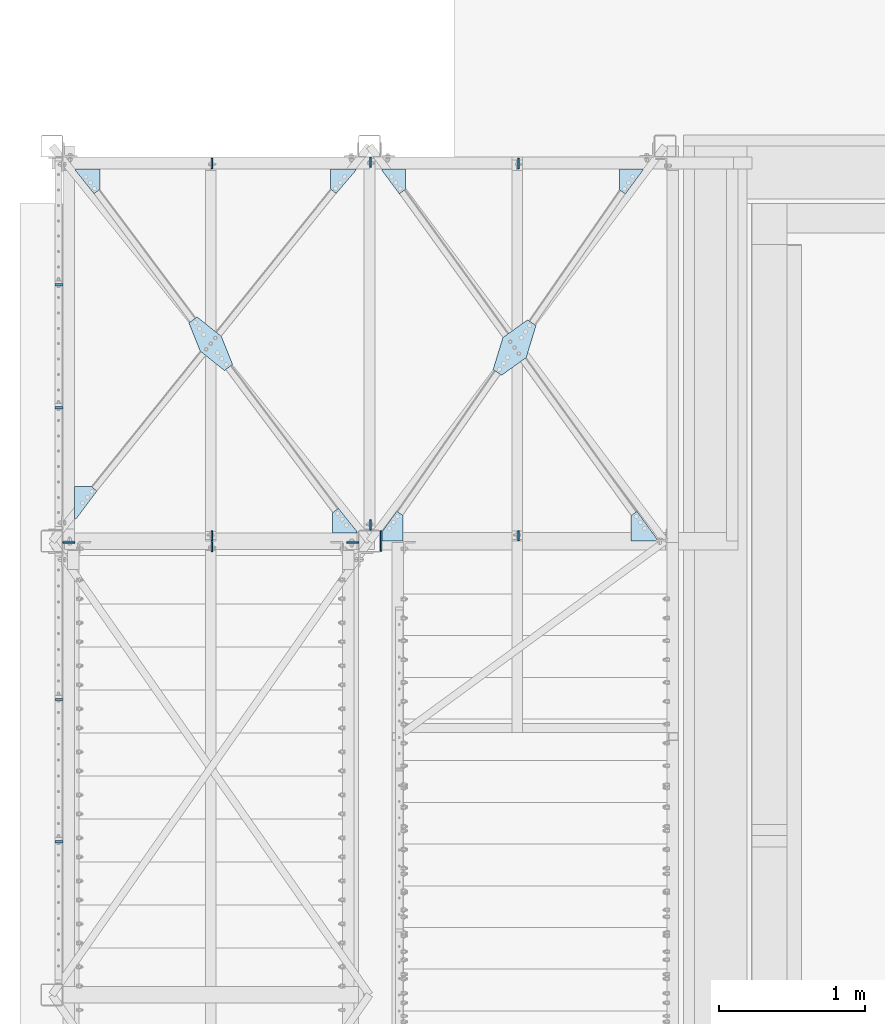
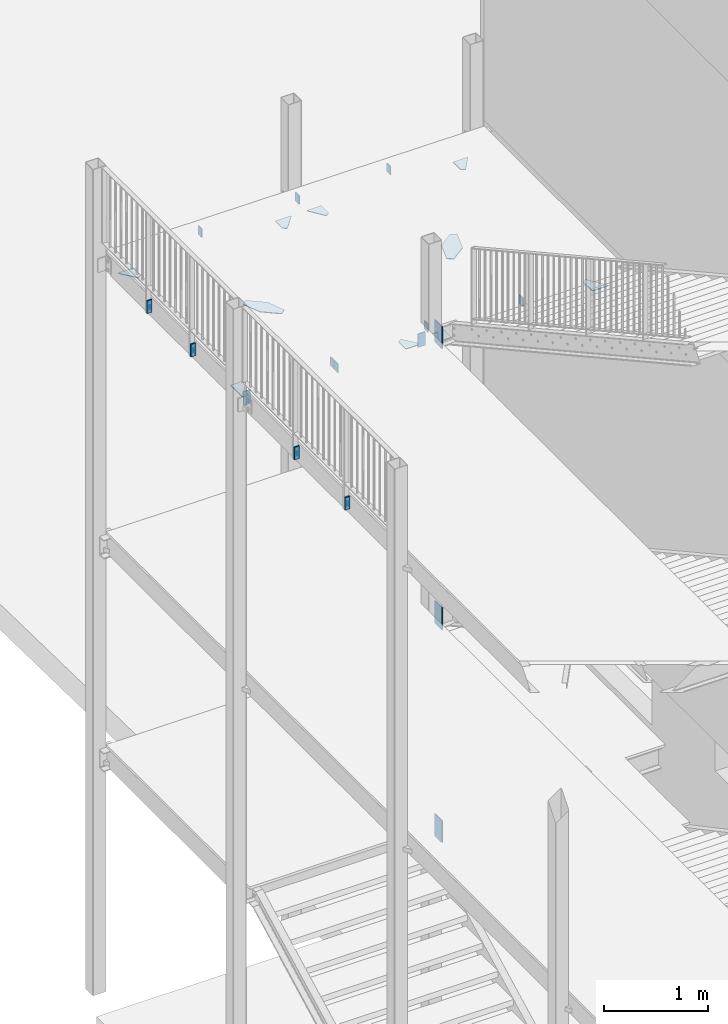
# One storey, part 63 of 78: 26 plates, 10 elements without a shape of their own.
"""IFC2X3 building model written with IfcOpenShell, lengths in millimetres."""

from ifc_helpers import new_model, si_unit, frame, origin_with_axes, place, context, subcontext, project, spatial, polyline, outline, extrude, material, type_object, element, aggregate, save


model = new_model("IFC2X3")

# Units and contexts
model_context = context("Model", 3, precision=1e-05, world=origin_with_axes())
body_context = subcontext(model_context, "Body", "Model", "MODEL_VIEW")
ifc_project = project(units=[si_unit("LENGTHUNIT", "METRE", prefix="MILLI"), si_unit("AREAUNIT", "SQUARE_METRE"), si_unit("VOLUMEUNIT", "CUBIC_METRE"), si_unit("MASSUNIT", "GRAM", prefix="KILO"), si_unit("TIMEUNIT", "SECOND"), si_unit("PLANEANGLEUNIT", "RADIAN"), si_unit("SOLIDANGLEUNIT", "STERADIAN"), si_unit("THERMODYNAMICTEMPERATUREUNIT", "DEGREE_CELSIUS"), si_unit("LUMINOUSINTENSITYUNIT", "LUMEN")], contexts=[model_context])

# Site, building, storey
site_placement = place(None, origin_with_axes())
site = spatial("IfcSite", under=ifc_project, at=site_placement, Name="Site", CompositionType="ELEMENT")
building_placement = place(site_placement, origin_with_axes())
building = spatial("IfcBuilding", under=site, at=building_placement, Name="Undefined", CompositionType="ELEMENT")
storey_placement = place(building_placement, origin_with_axes())
storey = spatial("IfcBuildingStorey", under=building, at=storey_placement, Name="Undefined", CompositionType="ELEMENT", Elevation=0.0)

# Assembly, plates
assembly_1_placement = place(storey_placement, origin_with_axes())
assembly_1 = element("IfcElementAssembly", 1, at=assembly_1_placement, inside=storey, AssemblyPlace="NOTDEFINED", PredefinedType="RIGID_FRAME")
ifc_material = material(Name="STEEL/S235JR")
plate_type_1 = type_object("IfcPlateType", Name="PL8*172", PredefinedType="NOTDEFINED")
plate_1_placement = place(assembly_1_placement, frame((-31348.3712811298, 12653.0, 156454.04), z_axis=(0.0, 0.0, 1.0), x_axis=(-1.0, 0.0, 0.0)))
plate_1 = element("IfcPlate", 2, at=plate_1_placement, type_object=plate_type_1, material=ifc_material, Name="GOUSSET", ObjectType="PL8*172", context=body_context, shape_type="SweptSolid", body=[
    extrude(outline(polyline([(0.0, 0.0), (160.078237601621, 0.0), (160.078237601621, 143.312384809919), (118.974109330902, 171.780799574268), (0.0, 10.0), (0.0, 0.0)])), frame((0.0, 0.0, -4.0), z_axis=(0.0, 0.0, 1.0), x_axis=(1.0, 0.0, 0.0)), (0.0, 0.0, 1.0), 8.0),
])
plate_type_2 = type_object("IfcPlateType", Name="PL10*70", PredefinedType="NOTDEFINED")
plate_2_placement = place(assembly_1_placement, frame((-32199.0800000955, 12724.0, 156645.04), z_axis=(-1.0, 0.0, 0.0), x_axis=(0.0, 0.0, -1.0)))
plate_2 = element("IfcPlate", 3, at=plate_2_placement, type_object=plate_type_2, material=ifc_material, Name="TOLE", ObjectType="PL10*70", context=body_context, shape_type="SweptSolid", body=[
    extrude(outline(polyline([(0.0, 0.0), (100.0, 0.0), (100.0, 70.0), (0.0, 70.0), (0.0, 0.0)])), frame((0.0, 0.0, -5.0), z_axis=(0.0, 0.0, 1.0), x_axis=(1.0, 0.0, 0.0)), (0.0, 0.0, 1.0), 10.0),
])

# Assembly, plate
assembly_2_placement = place(storey_placement, origin_with_axes())
assembly_2 = element("IfcElementAssembly", 4, at=assembly_2_placement, inside=storey, Name="POTEAU", AssemblyPlace="NOTDEFINED", PredefinedType="RIGID_FRAME")
plate_3_placement = place(assembly_2_placement, frame((-33209.0800000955, 12733.0, 156650.04), z_axis=(-1.0, 0.0, 0.0), x_axis=(0.0, 0.0, -1.0)))
plate_3 = element("IfcPlate", 5, at=plate_3_placement, type_object=plate_type_2, material=ifc_material, Name="TOLE", ObjectType="PL10*70", context=body_context, shape_type="SweptSolid", body=[
    extrude(outline(polyline([(0.0, 0.0), (100.0, 0.0), (100.0, 70.0), (0.0, 70.0), (0.0, 0.0)])), frame((0.0, 0.0, -5.0), z_axis=(0.0, 0.0, 1.0), x_axis=(1.0, 0.0, 0.0)), (0.0, 0.0, 1.0), 10.0),
])
aggregate(assembly_2, [plate_3])

assembly_3_placement = place(storey_placement, origin_with_axes())
assembly_3 = element("IfcElementAssembly", 6, at=assembly_3_placement, inside=storey, AssemblyPlace="NOTDEFINED", PredefinedType="RIGID_FRAME")
plate_4_placement = place(assembly_3_placement, frame((-34294.0800000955, 10105.0499999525, 156645.04), z_axis=(-1.0, 0.0, 0.0), x_axis=(0.0, 0.0, -1.0)))
plate_4 = element("IfcPlate", 7, at=plate_4_placement, type_object=plate_type_2, material=ifc_material, Name="TOLE", ObjectType="PL10*70", context=body_context, shape_type="SweptSolid", body=[
    extrude(outline(polyline([(0.0, 0.0), (100.0, 0.0), (100.0, 70.0), (0.0, 70.0), (0.0, 0.0)])), frame((0.0, 0.0, -5.0), z_axis=(0.0, 0.0, 1.0), x_axis=(1.0, 0.0, 0.0)), (0.0, 0.0, 1.0), 10.0),
])

# Assembly, plates
assembly_4_placement = place(storey_placement, origin_with_axes())
assembly_4 = element("IfcElementAssembly", 8, at=assembly_4_placement, inside=storey, Name="POTEAU", AssemblyPlace="NOTDEFINED", PredefinedType="RIGID_FRAME")
plate_5_placement = place(assembly_4_placement, frame((-32199.0800000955, 10111.0999999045, 156645.04), z_axis=(1.0, 0.0, 0.0), x_axis=(0.0, 0.0, -1.0)))
plate_5 = element("IfcPlate", 9, at=plate_5_placement, type_object=plate_type_2, material=ifc_material, Name="TOLE", ObjectType="PL10*70", context=body_context, shape_type="SweptSolid", body=[
    extrude(outline(polyline([(0.0, 0.0), (100.0, 0.0), (100.0, 70.0), (0.0, 70.0), (0.0, 0.0)])), frame((0.0, 0.0, -5.0), z_axis=(0.0, 0.0, 1.0), x_axis=(1.0, 0.0, 0.0)), (0.0, 0.0, 1.0), 10.0),
])
plate_6_placement = place(assembly_4_placement, frame((-33209.0800000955, 10183.0, 156650.04), z_axis=(1.0, 0.0, 0.0), x_axis=(0.0, 0.0, -1.0)))
plate_6 = element("IfcPlate", 10, at=plate_6_placement, type_object=plate_type_2, material=ifc_material, Name="TOLE", ObjectType="PL10*70", context=body_context, shape_type="SweptSolid", body=[
    extrude(outline(polyline([(0.0, 0.0), (100.0, 0.0), (100.0, 70.0), (0.0, 70.0), (0.0, 0.0)])), frame((0.0, 0.0, -5.0), z_axis=(0.0, 0.0, 1.0), x_axis=(1.0, 0.0, 0.0)), (0.0, 0.0, 1.0), 10.0),
])

# Plate
plate_7_placement = place(assembly_3_placement, frame((-34294.0800000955, 10110.9500000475, 156645.04), z_axis=(1.0, 0.0, 0.0), x_axis=(0.0, 0.0, -1.0)))
plate_7 = element("IfcPlate", 11, at=plate_7_placement, type_object=plate_type_2, material=ifc_material, Name="TOLE", ObjectType="PL10*70", context=body_context, shape_type="SweptSolid", body=[
    extrude(outline(polyline([(0.0, 0.0), (100.0, 0.0), (100.0, 70.0), (0.0, 70.0), (0.0, 0.0)])), frame((0.0, 0.0, -5.0), z_axis=(0.0, 0.0, 1.0), x_axis=(1.0, 0.0, 0.0)), (0.0, 0.0, 1.0), 10.0),
])

# Assembly, plate
assembly_5_placement = place(storey_placement, origin_with_axes())
assembly_5 = element("IfcElementAssembly", 12, at=assembly_5_placement, inside=storey, AssemblyPlace="NOTDEFINED", PredefinedType="RIGID_FRAME")
plate_8_placement = place(assembly_5_placement, frame((-34294.0800000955, 12724.0, 156645.04), z_axis=(-1.0, 0.0, 0.0), x_axis=(0.0, 0.0, -1.0)))
plate_8 = element("IfcPlate", 13, at=plate_8_placement, type_object=plate_type_2, material=ifc_material, Name="TOLE", ObjectType="PL10*70", context=body_context, shape_type="SweptSolid", body=[
    extrude(outline(polyline([(0.0, 0.0), (100.0, 0.0), (100.0, 70.0), (0.0, 70.0), (0.0, 0.0)])), frame((0.0, 0.0, -5.0), z_axis=(0.0, 0.0, 1.0), x_axis=(1.0, 0.0, 0.0)), (0.0, 0.0, 1.0), 10.0),
])

# Plate
plate_type_3 = type_object("IfcPlateType", Name="PL8*171", PredefinedType="NOTDEFINED")
plate_9_placement = place(assembly_1_placement, frame((-32971.8785369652, 12653.0, 156454.04), z_axis=(0.0, 0.0, 1.0), x_axis=(-1.0, 0.0, 0.0)))
plate_9 = element("IfcPlate", 14, at=plate_9_placement, type_object=plate_type_3, material=ifc_material, Name="GOUSSET", ObjectType="PL8*171", context=body_context, shape_type="SweptSolid", body=[
    extrude(outline(polyline([(0.0, 0.0), (159.551463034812, 0.0), (159.551463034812, 10.0), (40.5695909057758, 170.933903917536), (0.0, 141.708772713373), (0.0, 0.0)])), frame((0.0, 0.0, -4.0), z_axis=(0.0, 0.0, 1.0), x_axis=(1.0, 0.0, 0.0)), (0.0, 0.0, 1.0), 8.0),
])

aggregate(assembly_1, [plate_1, plate_2, plate_9])

# Assembly, plates
assembly_6_placement = place(storey_placement, origin_with_axes())
assembly_6 = element("IfcElementAssembly", 15, at=assembly_6_placement, inside=storey, AssemblyPlace="NOTDEFINED", PredefinedType="RIGID_FRAME")
plate_type_4 = type_object("IfcPlateType", Name="PL15*150", PredefinedType="NOTDEFINED")
plate_10_placement = place(assembly_6_placement, frame((-35311.43, 11020.5, 156585.04), z_axis=(0.0, 1.0, 0.0), x_axis=(-1.0, 0.0, 0.0)))
plate_10 = element("IfcPlate", 16, at=plate_10_placement, type_object=plate_type_4, material=ifc_material, Name="PLATINE", ObjectType="PL15*150", context=body_context, shape_type="SweptSolid", body=[
    extrude(outline(polyline([(54.9999999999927, -75.0), (0.0, -75.0), (0.0, 75.0), (54.9999999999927, 75.0), (54.9999999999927, -75.0)])), frame((0.0, 0.0, -7.5), z_axis=(0.0, 0.0, 1.0), x_axis=(1.0, 0.0, 0.0)), (0.0, 0.0, 1.0), 15.0),
])
plate_11_placement = place(assembly_6_placement, frame((-35311.43, 11860.5, 156585.04), z_axis=(0.0, 1.0, 0.0), x_axis=(-1.0, 0.0, 0.0)))
plate_11 = element("IfcPlate", 17, at=plate_11_placement, type_object=plate_type_4, material=ifc_material, Name="PLATINE", ObjectType="PL15*150", context=body_context, shape_type="SweptSolid", body=[
    extrude(outline(polyline([(54.9999999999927, -75.0), (0.0, -75.0), (0.0, 75.0), (54.9999999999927, 75.0), (54.9999999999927, -75.0)])), frame((0.0, 0.0, -7.5), z_axis=(0.0, 0.0, 1.0), x_axis=(1.0, 0.0, 0.0)), (0.0, 0.0, 1.0), 15.0),
])

assembly_7_placement = place(storey_placement, origin_with_axes())
assembly_7 = element("IfcElementAssembly", 18, at=assembly_7_placement, inside=storey, AssemblyPlace="NOTDEFINED", PredefinedType="RIGID_FRAME")
plate_12_placement = place(assembly_7_placement, frame((-35311.43, 8053.83333333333, 156585.04), z_axis=(0.0, 1.0, 0.0), x_axis=(-1.0, 0.0, 0.0)))
plate_12 = element("IfcPlate", 19, at=plate_12_placement, type_object=plate_type_4, material=ifc_material, Name="PLATINE", ObjectType="PL15*150", context=body_context, shape_type="SweptSolid", body=[
    extrude(outline(polyline([(54.9999999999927, -75.0), (0.0, -75.0), (0.0, 75.0), (54.9999999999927, 75.0), (54.9999999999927, -75.0)])), frame((0.0, 0.0, -7.5), z_axis=(0.0, 0.0, 1.0), x_axis=(1.0, 0.0, 0.0)), (0.0, 0.0, 1.0), 15.0),
])
plate_13_placement = place(assembly_7_placement, frame((-35311.43, 9027.16666666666, 156585.04), z_axis=(0.0, 1.0, 0.0), x_axis=(-1.0, 0.0, 0.0)))
plate_13 = element("IfcPlate", 20, at=plate_13_placement, type_object=plate_type_4, material=ifc_material, Name="PLATINE", ObjectType="PL15*150", context=body_context, shape_type="SweptSolid", body=[
    extrude(outline(polyline([(54.9999999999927, -75.0), (0.0, -75.0), (0.0, 75.0), (54.9999999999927, 75.0), (54.9999999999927, -75.0)])), frame((0.0, 0.0, -7.5), z_axis=(0.0, 0.0, 1.0), x_axis=(1.0, 0.0, 0.0)), (0.0, 0.0, 1.0), 15.0),
])
aggregate(assembly_7, [plate_12, plate_13])

# Assembly, plate
assembly_8_placement = place(storey_placement, origin_with_axes())
assembly_8 = element("IfcElementAssembly", 21, at=assembly_8_placement, inside=storey, AssemblyPlace="NOTDEFINED", PredefinedType="RIGID_FRAME")
plate_type_5 = type_object("IfcPlateType", Name="PL8*169", PredefinedType="NOTDEFINED")
plate_14_placement = place(assembly_8_placement, frame((-34229.0798596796, 11508.1137359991, 156454.04), z_axis=(0.0, 0.0, 1.0), x_axis=(-0.779458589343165, 0.626453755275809, 0.0)))
plate_14 = element("IfcPlate", 22, at=plate_14_placement, type_object=plate_type_5, material=ifc_material, Name="GOUSSET", ObjectType="PL8*169", context=body_context, shape_type="SweptSolid", body=[
    extrude(outline(polyline([(0.0, 0.0), (212.793110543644, 9.04037733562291e-10), (230.212170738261, 67.798055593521), (50.0000000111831, 168.771197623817), (-162.793110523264, 168.771197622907), (-180.21217071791, 100.973142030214), (0.0, 0.0)])), frame((0.0, 0.0, -4.0), z_axis=(0.0, 0.0, 1.0), x_axis=(1.0, 0.0, 0.0)), (0.0, 0.0, 1.0), 8.0),
])
aggregate(assembly_8, [plate_14])

# Plate
plate_type_6 = type_object("IfcPlateType", Name="PL8*170", PredefinedType="NOTDEFINED")
plate_15_placement = place(assembly_3_placement, frame((-33468.6209426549, 10163.0, 156454.04), z_axis=(0.0, 0.0, 1.0), x_axis=(1.0, 0.0, 0.0)))
plate_15 = element("IfcPlate", 23, at=plate_15_placement, type_object=plate_type_6, material=ifc_material, Name="GOUSSET", ObjectType="PL8*170", context=body_context, shape_type="SweptSolid", body=[
    extrude(outline(polyline([(0.0, 0.0), (167.190942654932, 0.0), (167.190942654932, 10.0), (40.0355590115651, 170.059206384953), (0.0, 140.106677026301), (0.0, 0.0)])), frame((0.0, 0.0, -4.0), z_axis=(0.0, 0.0, 1.0), x_axis=(1.0, 0.0, 0.0)), (0.0, 0.0, 1.0), 8.0),
])

aggregate(assembly_3, [plate_4, plate_15, plate_7])

plate_16_placement = place(assembly_5_placement, frame((-35059.4242417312, 12653.0, 156454.04), z_axis=(0.0, 0.0, 1.0), x_axis=(-1.0, 0.0, 0.0)))
plate_16 = element("IfcPlate", 24, at=plate_16_placement, type_object=plate_type_6, material=ifc_material, Name="GOUSSET", ObjectType="PL8*170", context=body_context, shape_type="SweptSolid", body=[
    extrude(outline(polyline([(0.0, 0.0), (167.265039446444, 0.0), (167.265039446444, 10.0), (40.0355590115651, 170.059206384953), (0.0, 140.106677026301), (0.0, 0.0)])), frame((0.0, 0.0, -4.0), z_axis=(0.0, 0.0, 1.0), x_axis=(1.0, 0.0, 0.0)), (0.0, 0.0, 1.0), 8.0),
])

# Assembly, plate
assembly_9_placement = place(storey_placement, origin_with_axes())
assembly_9 = element("IfcElementAssembly", 25, at=assembly_9_placement, inside=storey, AssemblyPlace="NOTDEFINED", PredefinedType="RIGID_FRAME")
plate_type_7 = type_object("IfcPlateType", Name="PL8*193", PredefinedType="NOTDEFINED")
plate_17_placement = place(assembly_9_placement, frame((-32304.7410108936, 11499.6449046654, 156454.04), z_axis=(0.0, 0.0, 1.0), x_axis=(-0.291564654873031, -0.956551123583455, 0.0)))
plate_17 = element("IfcPlate", 26, at=plate_17_placement, type_object=plate_type_7, material=ifc_material, Name="GOUSSET", ObjectType="PL8*193", context=body_context, shape_type="SweptSolid", body=[
    extrude(outline(polyline([(0.0, 0.0), (228.01578392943, 2.11002770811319e-10), (249.361560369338, 66.6660170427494), (83.8353404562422, 192.674139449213), (-144.180443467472, 192.674139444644), (-165.526219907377, 126.008122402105), (0.0, 0.0)])), frame((0.0, 0.0, -4.0), z_axis=(0.0, 0.0, 1.0), x_axis=(1.0, 0.0, 0.0)), (0.0, 0.0, 1.0), 8.0),
])
aggregate(assembly_9, [plate_17])

# Plate
plate_type_8 = type_object("IfcPlateType", Name="PL8*143", PredefinedType="NOTDEFINED")
plate_18_placement = place(assembly_4_placement, frame((-33131.43, 10111.0999999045, 156454.04), z_axis=(0.0, 0.0, 1.0), x_axis=(1.0, 0.0, 0.0)))
plate_18 = element("IfcPlate", 27, at=plate_18_placement, type_object=plate_type_8, material=ifc_material, Name="GOUSSET", ObjectType="PL8*143", context=body_context, shape_type="SweptSolid", body=[
    extrude(outline(polyline([(0.0, 0.0), (142.592481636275, 0.0), (142.592481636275, 173.312384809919), (101.488353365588, 201.780799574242), (0.0, 60.0), (0.0, 0.0)])), frame((0.0, 0.0, -4.0), z_axis=(0.0, 0.0, 1.0), x_axis=(1.0, 0.0, 0.0)), (0.0, 0.0, 1.0), 8.0),
])

plate_type_9 = type_object("IfcPlateType", Name="PL8*150", PredefinedType="NOTDEFINED")
plate_19_placement = place(assembly_4_placement, frame((-31428.1683164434, 10111.0999999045, 156454.04), z_axis=(0.0, 0.0, 1.0), x_axis=(1.0, 0.0, 0.0)))
plate_19 = element("IfcPlate", 28, at=plate_19_placement, type_object=plate_type_9, material=ifc_material, Name="GOUSSET", ObjectType="PL8*150", context=body_context, shape_type="SweptSolid", body=[
    extrude(outline(polyline([(0.0, 0.0), (185.316421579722, 0.0), (40.5695909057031, 200.933903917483), (0.0, 171.708772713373), (0.0, 0.0)])), frame((0.0, 0.0, -4.0), z_axis=(0.0, 0.0, 1.0), x_axis=(1.0, 0.0, 0.0)), (0.0, 0.0, 1.0), 8.0),
])

# Assembly, plate
assembly_10_placement = place(storey_placement, origin_with_axes())
assembly_10 = element("IfcElementAssembly", 29, at=assembly_10_placement, inside=storey, Name="POTEAU", AssemblyPlace="NOTDEFINED", PredefinedType="RIGID_FRAME")
plate_type_10 = type_object("IfcPlateType", Name="PL10*80", PredefinedType="NOTDEFINED")
plate_20_placement = place(assembly_10_placement, frame((-35311.43, 10100.0499999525, 156640.04), z_axis=(0.0, -1.0, 0.0), x_axis=(0.0, 0.0, -1.0)))
plate_20 = element("IfcPlate", 30, at=plate_20_placement, type_object=plate_type_10, material=ifc_material, Name="TOLE", ObjectType="PL10*80", context=body_context, shape_type="SweptSolid", body=[
    extrude(outline(polyline([(0.0, 0.0), (160.0, 0.0), (160.0, 80.0), (0.0, 80.0), (0.0, 0.0)])), frame((0.0, 0.0, -5.0), z_axis=(0.0, 0.0, 1.0), x_axis=(1.0, 0.0, 0.0)), (0.0, 0.0, 1.0), 10.0),
])
aggregate(assembly_10, [plate_20])

# Plate
plate_21_placement = place(assembly_4_placement, frame((-33291.43, 10100.0499999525, 156640.04), z_axis=(0.0, 1.0, 0.0), x_axis=(0.0, 0.0, -1.0)))
plate_21 = element("IfcPlate", 31, at=plate_21_placement, type_object=plate_type_10, material=ifc_material, Name="TOLE", ObjectType="PL10*80", context=body_context, shape_type="SweptSolid", body=[
    extrude(outline(polyline([(0.0, 0.0), (160.0, 0.0), (160.0, 80.0), (0.0, 80.0), (0.0, 0.0)])), frame((0.0, 0.0, -5.0), z_axis=(0.0, 0.0, 1.0), x_axis=(1.0, 0.0, 0.0)), (0.0, 0.0, 1.0), 10.0),
])

plate_type_11 = type_object("IfcPlateType", Name="PL8*153", PredefinedType="NOTDEFINED")
plate_22_placement = place(assembly_6_placement, frame((-35231.43, 10482.5678993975, 156454.04), z_axis=(0.0, 0.0, 1.0), x_axis=(0.0, -1.0, 0.0)))
plate_22 = element("IfcPlate", 32, at=plate_22_placement, type_object=plate_type_11, material=ifc_material, Name="GOUSSET", ObjectType="PL8*153", context=body_context, shape_type="SweptSolid", body=[
    extrude(outline(polyline([(0.0, 0.0), (221.617932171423, 0.0), (221.617932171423, 10.0), (31.3226877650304, 152.940992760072), (0.0, 113.968063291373), (0.0, 0.0)])), frame((0.0, 0.0, -4.0), z_axis=(0.0, 0.0, 1.0), x_axis=(1.0, 0.0, 0.0)), (0.0, 0.0, 1.0), 8.0),
])

aggregate(assembly_6, [plate_10, plate_11, plate_22])

plate_type_12 = type_object("IfcPlateType", Name="PL10*140", PredefinedType="NOTDEFINED")
plate_23_placement = place(assembly_4_placement, frame((-33136.43, 10108.0, 150620.04), z_axis=(1.0, 0.0, 0.0), x_axis=(0.0, 0.0, 1.0)))
plate_23 = element("IfcPlate", 33, at=plate_23_placement, type_object=plate_type_12, material=ifc_material, Name="PLATINE", ObjectType="PL10*140", context=body_context, shape_type="SweptSolid", body=[
    extrude(outline(polyline([(0.0, 70.0), (260.0, 70.0), (260.0, -70.0), (0.0, -70.0), (0.0, 70.0)])), frame((0.0, 0.0, -5.0), z_axis=(0.0, 0.0, 1.0), x_axis=(1.0, 0.0, 0.0)), (0.0, 0.0, 1.0), 10.0),
])

plate_24_placement = place(assembly_4_placement, frame((-33136.43, 10108.0, 153120.04), z_axis=(1.0, 0.0, 0.0), x_axis=(0.0, 0.0, 1.0)))
plate_24 = element("IfcPlate", 34, at=plate_24_placement, type_object=plate_type_12, material=ifc_material, Name="PLATINE", ObjectType="PL10*140", context=body_context, shape_type="SweptSolid", body=[
    extrude(outline(polyline([(0.0, 70.0), (260.0, 70.0), (260.0, -70.0), (0.0, -70.0), (0.0, 70.0)])), frame((0.0, 0.0, -5.0), z_axis=(0.0, 0.0, 1.0), x_axis=(1.0, 0.0, 0.0)), (0.0, 0.0, 1.0), 10.0),
])

plate_25_placement = place(assembly_4_placement, frame((-33136.43, 10108.0, 156420.04), z_axis=(1.0, 0.0, 0.0), x_axis=(0.0, 0.0, 1.0)))
plate_25 = element("IfcPlate", 35, at=plate_25_placement, type_object=plate_type_12, material=ifc_material, Name="PLATINE", ObjectType="PL10*140", context=body_context, shape_type="SweptSolid", body=[
    extrude(outline(polyline([(0.0, 70.0), (260.0, 70.0), (260.0, -70.0), (0.0, -70.0), (0.0, 70.0)])), frame((0.0, 0.0, -5.0), z_axis=(0.0, 0.0, 1.0), x_axis=(1.0, 0.0, 0.0)), (0.0, 0.0, 1.0), 10.0),
])

aggregate(assembly_4, [plate_18, plate_19, plate_21, plate_5, plate_6, plate_23, plate_24, plate_25])

plate_type_13 = type_object("IfcPlateType", Name="PL8*168", PredefinedType="NOTDEFINED")
plate_26_placement = place(assembly_5_placement, frame((-33308.9305287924, 12653.0, 156454.04), z_axis=(0.0, 0.0, 1.0), x_axis=(-1.0, 0.0, 0.0)))
plate_26 = element("IfcPlate", 36, at=plate_26_placement, type_object=plate_type_13, material=ifc_material, Name="GOUSSET", ObjectType="PL8*168", context=body_context, shape_type="SweptSolid", body=[
    extrude(outline(polyline([(0.0, 0.0), (174.189227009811, 0.0), (174.189227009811, 136.918788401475), (135.216297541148, 168.24147616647), (0.0, 10.0), (0.0, 0.0)])), frame((0.0, 0.0, -4.0), z_axis=(0.0, 0.0, 1.0), x_axis=(1.0, 0.0, 0.0)), (0.0, 0.0, 1.0), 8.0),
])

aggregate(assembly_5, [plate_16, plate_26, plate_8])

save(model, "model.ifc")
